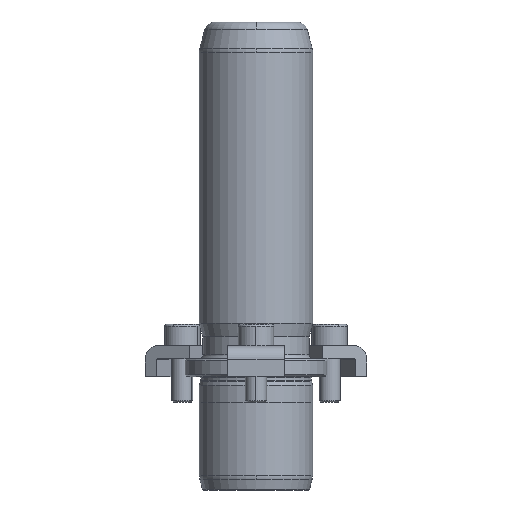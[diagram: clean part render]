
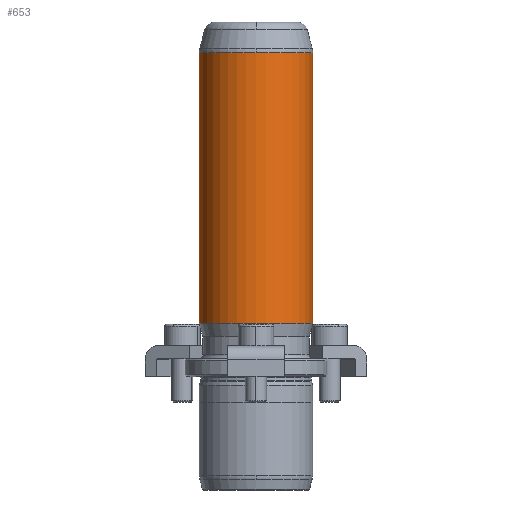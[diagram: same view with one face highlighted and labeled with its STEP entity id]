
A CAD part, front view. The second image highlights one B-rep face of the part: STEP entity #653.
In plain terms, the highlighted cylindrical face has radius 16 mm (diameter 32 mm), a partial arc.
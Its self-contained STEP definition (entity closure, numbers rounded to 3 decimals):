
#566=CARTESIAN_POINT('',(0.0,-16.,91.342));
#567=VERTEX_POINT('',#566);
#594=CARTESIAN_POINT('',(-16.0,0.,91.342));
#595=VERTEX_POINT('',#594);
#603=CARTESIAN_POINT('',(0.0,0.,91.342));
#604=DIRECTION('',(0.0,0.0,1.0));
#605=DIRECTION('',(1.0,0.0,0.0));
#606=AXIS2_PLACEMENT_3D('',#603,#604,#605);
#607=CIRCLE('',#606,16.0);
#608=EDGE_CURVE('',#595,#567,#607,.T.);
#613=CARTESIAN_POINT('',(0.0,0.,53.171));
#614=DIRECTION('',(0.0,0.,1.0));
#615=DIRECTION('',(1.0,0.0,0.0));
#616=AXIS2_PLACEMENT_3D('',#613,#614,#615);
#617=CYLINDRICAL_SURFACE('',#616,16.0);
#618=CARTESIAN_POINT('',(16.0,0.,91.342));
#619=VERTEX_POINT('',#618);
#620=CARTESIAN_POINT('',(16.0,0.,15.0));
#621=VERTEX_POINT('',#620);
#622=CARTESIAN_POINT('',(16.0,0.,91.342));
#623=DIRECTION('',(0.0,0.0,-1.0));
#624=VECTOR('',#623,76.342);
#625=LINE('',#622,#624);
#626=EDGE_CURVE('',#619,#621,#625,.T.);
#627=ORIENTED_EDGE('',*,*,#626,.F.);
#628=CARTESIAN_POINT('',(0.0,0.,91.342));
#629=DIRECTION('',(0.0,0.0,1.0));
#630=DIRECTION('',(1.0,0.0,0.0));
#631=AXIS2_PLACEMENT_3D('',#628,#629,#630);
#632=CIRCLE('',#631,16.0);
#633=EDGE_CURVE('',#567,#619,#632,.T.);
#634=ORIENTED_EDGE('',*,*,#633,.F.);
#635=ORIENTED_EDGE('',*,*,#608,.F.);
#636=CARTESIAN_POINT('',(-16.0,0.,15.0));
#637=VERTEX_POINT('',#636);
#638=CARTESIAN_POINT('',(-16.0,0.,91.342));
#639=DIRECTION('',(0.0,0.0,-1.0));
#640=VECTOR('',#639,76.342);
#641=LINE('',#638,#640);
#642=EDGE_CURVE('',#595,#637,#641,.T.);
#643=ORIENTED_EDGE('',*,*,#642,.T.);
#644=CARTESIAN_POINT('',(0.0,0.,15.0));
#645=DIRECTION('',(0.0,0.0,1.0));
#646=DIRECTION('',(1.0,0.0,0.0));
#647=AXIS2_PLACEMENT_3D('',#644,#645,#646);
#648=CIRCLE('',#647,16.0);
#649=EDGE_CURVE('',#637,#621,#648,.T.);
#650=ORIENTED_EDGE('',*,*,#649,.T.);
#651=EDGE_LOOP('',(#627,#634,#635,#643,#650));
#652=FACE_OUTER_BOUND('',#651,.T.);
#653=ADVANCED_FACE('',(#652),#617,.T.);
